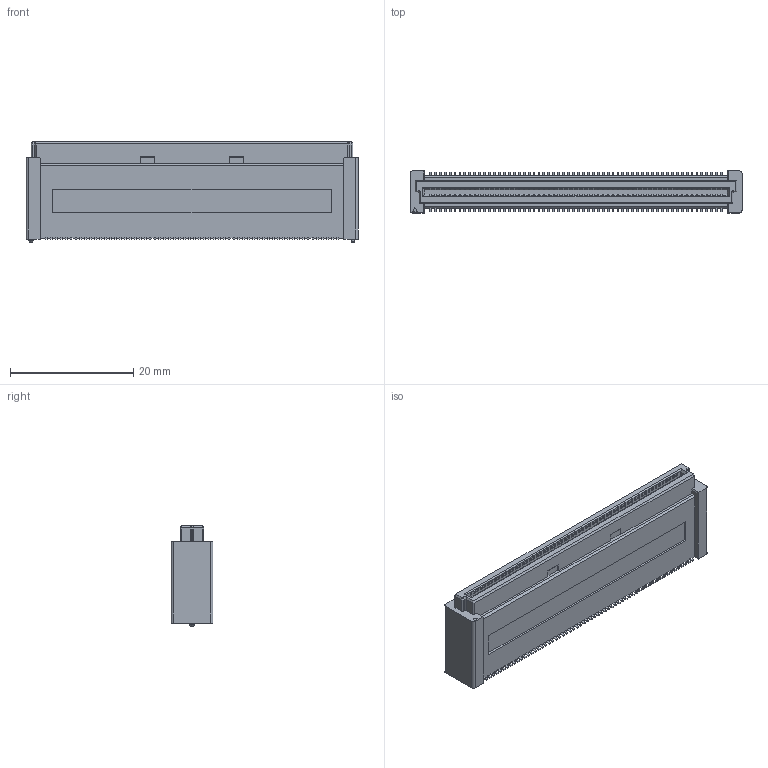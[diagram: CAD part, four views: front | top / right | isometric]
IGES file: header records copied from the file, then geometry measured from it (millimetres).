
Start section:  PTC IGES file: c-2-1735482-5-a-3d.igs
Global section: file name: c-2-1735482-5-a-3d.igs; native system: Pro/ENGINEER by Parametric Technology Corporation; preprocessor: 2008380; author: workeradm; organization: Unknown; units: millimetre
Bounding box: 53.8 x 6.8 x 16.25 mm (x, y, z)
Surface area: 2878 mm2 (no closed solid volume)
Topology: 0 solids, 0 shells, 1313 faces, 7784 edges, 7778 vertices
Faces by surface type: bspline 923, revolution 390
